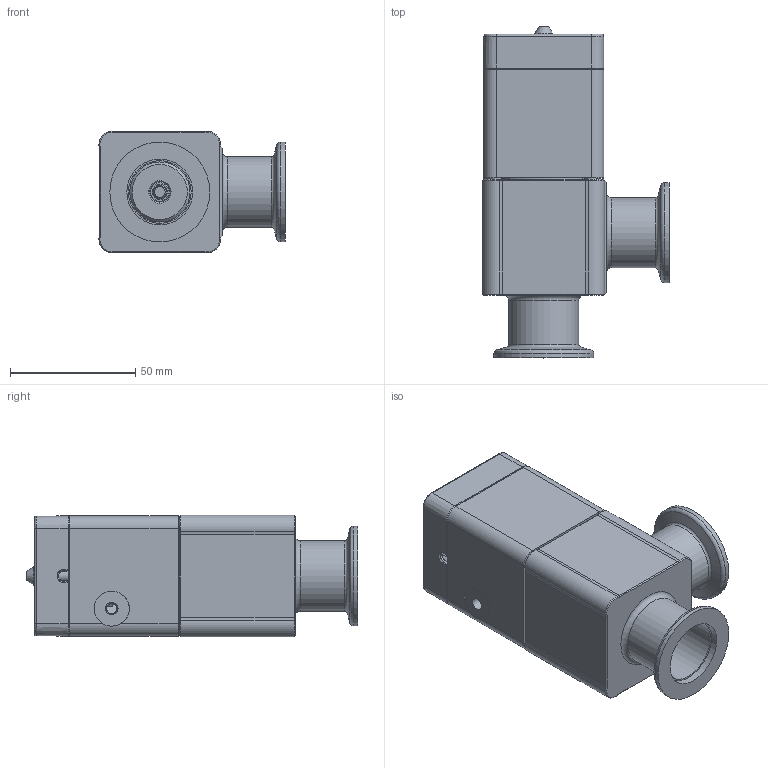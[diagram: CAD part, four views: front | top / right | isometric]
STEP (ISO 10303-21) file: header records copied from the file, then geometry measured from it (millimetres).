
FILE_DESCRIPTION(/* description */ (''),/* implementation_level */ '2;1');
FILE_NAME(/* name */ '1004896630_203.stp',/* time_stamp */ '2013-07-17T10:14:50+02:00',/* author */ (''),/* organization */ (''),/* preprocessor_version */ 'ST-DEVELOPER v11',/* originating_system */ 'SIEMENS PLM Software NX 7.5',/* authorisation */ '');
FILE_SCHEMA (('AP203_CONFIGURATION_CONTROLLED_3D_DESIGN_OF_MECHANICAL_PARTS_AND_ASSEMBLIES_MIM_LF'));
Length unit declared in the file: millimetre
Products named in the file (8): 233359; 236204_1.1; 239359.4; 245188.1; 243878.2; 232362.12; 239983.3; 701603
Assembly tree (11 placements, depth 3):
  701603
    232362.12
    243878.2
    245188.1  x4
    239359.4
    239983.3
      236204_1.1  x2
      233359
Bounding box: 74.29 x 132.51 x 48.57 mm (x, y, z)
Volume: 139062.4 mm3; surface area: 70569.7 mm2
Topology: 18 solids, 18 shells, 557 faces, 1334 edges, 857 vertices
Faces by surface type: plane 293, cylinder 133, cone 97, bspline 23, torus 11
Full cylindrical faces by diameter (mm): 2.5 x3, 2.95 x1, 3 x7, 3.2 x4, 3.26 x4, 3.3 x4, 4 x12, 4.2 x1, 4.4 x1, 4.5 x4, 4.7 x3, 5 x1, 5.1 x1, 5.6 x2, 6 x3, 7 x4, 7.4 x1, 7.975 x3, 8 x5, 8.012 x2, 9.25 x1, 11.5 x1, 14 x1, 24 x1, 25 x2, 26.3 x2, 28 x2, 36.5 x1, 39.912 x2, 40.08 x1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
Entity records: 15384 total; most frequent: CARTESIAN_POINT 3200, DIRECTION 2265, ORIENTED_EDGE 2020, EDGE_CURVE 1010, AXIS2_PLACEMENT_3D 841, VERTEX_POINT 729, EDGE_LOOP 690, LINE 583
